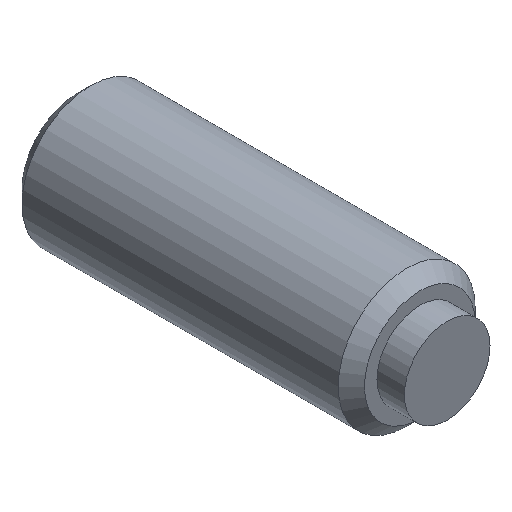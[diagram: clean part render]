
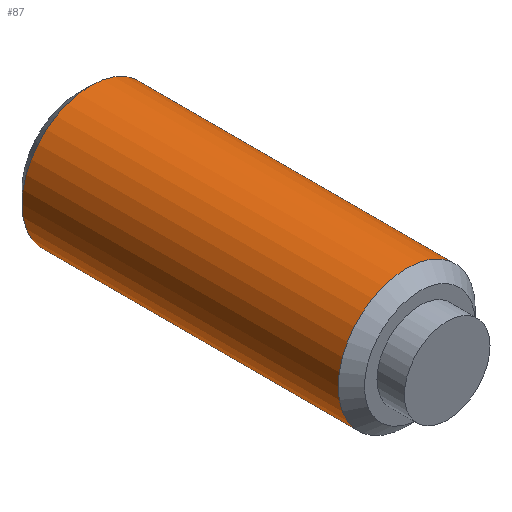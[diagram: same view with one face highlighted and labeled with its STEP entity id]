
A CAD part, isometric view. The second image highlights one B-rep face of the part: STEP entity #87.
In plain terms, the highlighted cylindrical face has radius 4 mm (diameter 8 mm), a full revolution.
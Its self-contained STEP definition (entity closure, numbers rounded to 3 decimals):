
#87 = ADVANCED_FACE( '', ( #118, #119 ), #120, .T. );
#118 = FACE_OUTER_BOUND( '', #152, .T. );
#119 = FACE_OUTER_BOUND( '', #153, .T. );
#120 = CYLINDRICAL_SURFACE( '', #154, 4. );
#152 = EDGE_LOOP( '', ( #238 ) );
#153 = EDGE_LOOP( '', ( #239 ) );
#154 = AXIS2_PLACEMENT_3D( '', #240, #241, #242 );
#238 = ORIENTED_EDGE( '', *, *, #270, .F. );
#239 = ORIENTED_EDGE( '', *, *, #271, .T. );
#240 = CARTESIAN_POINT( '', ( 0., 0., 0. ) );
#241 = DIRECTION( '', ( 0., 1., 0. ) );
#242 = DIRECTION( '', ( 0., 0., -1. ) );
#270 = EDGE_CURVE( '', #310, #310, #311, .T. );
#271 = EDGE_CURVE( '', #312, #312, #313, .T. );
#310 = VERTEX_POINT( '', #370 );
#311 = CIRCLE( '', #371, 4. );
#312 = VERTEX_POINT( '', #372 );
#313 = CIRCLE( '', #373, 4. );
#370 = CARTESIAN_POINT( '', ( 0., 2.367, -4. ) );
#371 = AXIS2_PLACEMENT_3D( '', #404, #405, #406 );
#372 = CARTESIAN_POINT( '', ( 0., 20.833, -4. ) );
#373 = AXIS2_PLACEMENT_3D( '', #407, #408, #409 );
#404 = CARTESIAN_POINT( '', ( 0., 2.367, 0. ) );
#405 = DIRECTION( '', ( 0., -1., 0. ) );
#406 = DIRECTION( '', ( 0., 0., -1. ) );
#407 = CARTESIAN_POINT( '', ( 0., 20.833, 0. ) );
#408 = DIRECTION( '', ( 0., -1., 0. ) );
#409 = DIRECTION( '', ( 0., 0., -1. ) );
